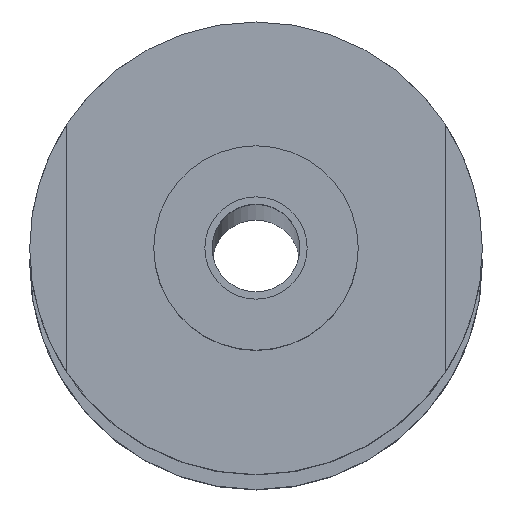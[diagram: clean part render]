
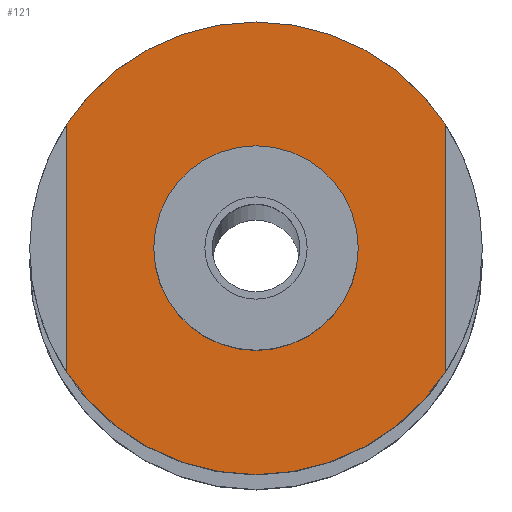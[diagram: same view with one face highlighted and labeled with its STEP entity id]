
A CAD part, top view. The second image highlights one B-rep face of the part: STEP entity #121.
In plain terms, the highlighted planar face has unit normal (0, 0, 1).
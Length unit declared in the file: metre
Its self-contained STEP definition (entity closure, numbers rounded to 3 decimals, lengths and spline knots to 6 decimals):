
#121=ADVANCED_FACE('37:1511',(#238,#239),#240,.T.);
#238=FACE_OUTER_BOUND('',#364,.T.);
#239=FACE_BOUND('',#365,.T.);
#240=PLANE('',#366);
#364=EDGE_LOOP('',(#596,#597,#598,#599,#600,#601));
#365=EDGE_LOOP('',(#602,#603));
#366=AXIS2_PLACEMENT_3D('',#604,#605,#606);
#596=ORIENTED_EDGE('',*,*,#761,.F.);
#597=ORIENTED_EDGE('',*,*,#760,.F.);
#598=ORIENTED_EDGE('',*,*,#756,.F.);
#599=ORIENTED_EDGE('',*,*,#688,.F.);
#600=ORIENTED_EDGE('',*,*,#687,.F.);
#601=ORIENTED_EDGE('',*,*,#751,.T.);
#602=ORIENTED_EDGE('',*,*,#749,.F.);
#603=ORIENTED_EDGE('',*,*,#693,.F.);
#604=CARTESIAN_POINT('',(0.0,0.0,2.965));
#605=DIRECTION('',(0.0,0.0,1.0));
#606=DIRECTION('',(1.0,0.0,0.0));
#687=EDGE_CURVE('37:1561',#812,#814,#815,.F.);
#688=EDGE_CURVE('37:1552',#814,#816,#817,.F.);
#693=EDGE_CURVE('',#822,#825,#826,.T.);
#749=EDGE_CURVE('37:1539',#825,#822,#907,.T.);
#751=EDGE_CURVE('37:3142',#812,#909,#910,.T.);
#756=EDGE_CURVE('37:2641',#816,#917,#918,.F.);
#760=EDGE_CURVE('37:1558',#917,#922,#923,.F.);
#761=EDGE_CURVE('37:1549',#922,#909,#924,.F.);
#812=VERTEX_POINT('',#1001);
#814=VERTEX_POINT('',#1004);
#815=CIRCLE('',#1005,0.0155);
#816=VERTEX_POINT('',#1006);
#817=CIRCLE('',#1007,0.0155);
#822=VERTEX_POINT('',#1013);
#825=VERTEX_POINT('',#1017);
#826=CIRCLE('',#1018,0.007);
#907=CIRCLE('',#1116,0.007);
#909=VERTEX_POINT('',#1118);
#910=LINE('',#1119,#1120);
#917=VERTEX_POINT('',#1130);
#918=LINE('',#1131,#1132);
#922=VERTEX_POINT('',#1137);
#923=CIRCLE('',#1138,0.0155);
#924=CIRCLE('',#1139,0.0155);
#1001=CARTESIAN_POINT('',(-0.013092,0.008536,2.965));
#1004=CARTESIAN_POINT('',(-0.000092,0.015595,2.965));
#1005=AXIS2_PLACEMENT_3D('',#1221,#1222,#1223);
#1006=CARTESIAN_POINT('',(0.012908,0.008536,2.965));
#1007=AXIS2_PLACEMENT_3D('',#1224,#1225,#1226);
#1013=CARTESIAN_POINT('',(0.006908,0.000095,2.965));
#1017=CARTESIAN_POINT('',(-0.007092,0.000095,2.965));
#1018=AXIS2_PLACEMENT_3D('',#1232,#1233,#1234);
#1116=AXIS2_PLACEMENT_3D('',#1318,#1319,#1320);
#1118=CARTESIAN_POINT('',(-0.013092,-0.008346,2.965));
#1119=CARTESIAN_POINT('',(-0.013092,0.000048,2.965));
#1120=VECTOR('',#1321,1.0);
#1130=CARTESIAN_POINT('',(0.012908,-0.008346,2.965));
#1131=CARTESIAN_POINT('',(0.012908,0.000048,2.965));
#1132=VECTOR('',#1325,1.0);
#1137=CARTESIAN_POINT('',(-0.000092,-0.015405,2.965));
#1138=AXIS2_PLACEMENT_3D('',#1330,#1331,#1332);
#1139=AXIS2_PLACEMENT_3D('',#1333,#1334,#1335);
#1221=CARTESIAN_POINT('',(-0.000092,0.000095,2.965));
#1222=DIRECTION('',(0.0,0.0,1.0));
#1223=DIRECTION('',(1.0,0.0,0.0));
#1224=CARTESIAN_POINT('',(-0.000092,0.000095,2.965));
#1225=DIRECTION('',(0.0,0.0,1.0));
#1226=DIRECTION('',(1.0,0.0,0.0));
#1232=CARTESIAN_POINT('',(-0.000092,0.000095,2.965));
#1233=DIRECTION('',(0.0,0.0,1.0));
#1234=DIRECTION('',(1.0,0.0,-0.0));
#1318=CARTESIAN_POINT('',(-0.000092,0.000095,2.965));
#1319=DIRECTION('',(0.0,0.0,1.0));
#1320=DIRECTION('',(1.0,0.0,-0.0));
#1321=DIRECTION('',(0.,-1.0,0.0));
#1325=DIRECTION('',(0.,1.0,0.0));
#1330=CARTESIAN_POINT('',(-0.000092,0.000095,2.965));
#1331=DIRECTION('',(0.0,0.0,1.0));
#1332=DIRECTION('',(1.0,0.0,0.0));
#1333=CARTESIAN_POINT('',(-0.000092,0.000095,2.965));
#1334=DIRECTION('',(0.0,0.0,1.0));
#1335=DIRECTION('',(1.0,0.0,0.0));
